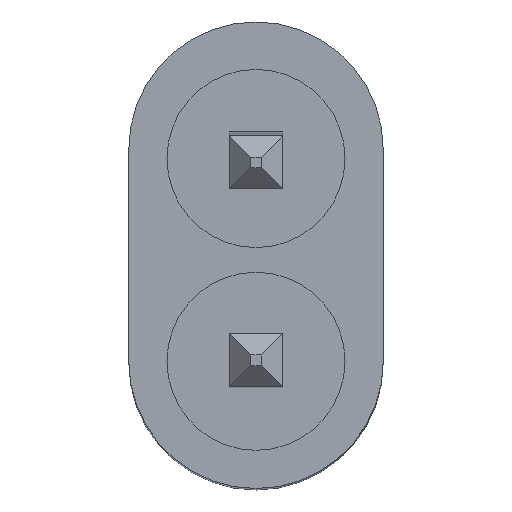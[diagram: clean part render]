
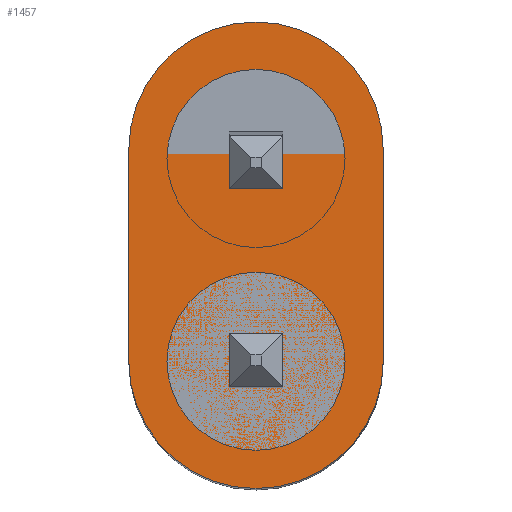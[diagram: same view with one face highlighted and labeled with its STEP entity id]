
A CAD part, top view. The second image highlights one B-rep face of the part: STEP entity #1457.
In plain terms, the highlighted planar face has unit normal (0, 0, 1).
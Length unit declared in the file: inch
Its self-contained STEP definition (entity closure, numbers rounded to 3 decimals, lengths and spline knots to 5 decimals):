
#1340=CARTESIAN_POINT('',(0.,0.,0.4));
#1341=DIRECTION('',(0.,0.,1.));
#1342=DIRECTION('',(1.,0.,0.));
#1343=AXIS2_PLACEMENT_3D('',#1340,#1341,#1342);
#1345=DIRECTION('',(0.,1.,0.));
#1346=VECTOR('',#1345,0.1);
#1347=CARTESIAN_POINT('',(0.06,-0.1,0.4));
#1348=LINE('',#1347,#1346);
#1349=CARTESIAN_POINT('',(0.,-0.1,0.4));
#1350=DIRECTION('',(0.,0.,1.));
#1351=DIRECTION('',(-1.,0.,0.));
#1352=AXIS2_PLACEMENT_3D('',#1349,#1350,#1351);
#1354=DIRECTION('',(0.,-1.,0.));
#1355=VECTOR('',#1354,0.1);
#1356=CARTESIAN_POINT('',(-0.06,0.,0.4));
#1357=LINE('',#1356,#1355);
#1366=CARTESIAN_POINT('',(0.06,0.,0.4));
#1367=CARTESIAN_POINT('',(-0.06,0.,0.4));
#1368=VERTEX_POINT('',#1366);
#1369=VERTEX_POINT('',#1367);
#1370=CARTESIAN_POINT('',(-0.06,-0.1,0.4));
#1371=VERTEX_POINT('',#1370);
#1372=CARTESIAN_POINT('',(0.06,-0.1,0.4));
#1373=VERTEX_POINT('',#1372);
#1446=CARTESIAN_POINT('',(0.,0.,0.4));
#1447=DIRECTION('',(0.,0.,1.));
#1448=DIRECTION('',(1.,0.,0.));
#1449=AXIS2_PLACEMENT_3D('',#1446,#1447,#1448);
#1450=PLANE('',#1449);
#1451=ORIENTED_EDGE('',*,*,#1398,.F.);
#1452=ORIENTED_EDGE('',*,*,#1413,.F.);
#1453=ORIENTED_EDGE('',*,*,#1427,.F.);
#1454=ORIENTED_EDGE('',*,*,#1440,.F.);
#1455=EDGE_LOOP('',(#1451,#1452,#1453,#1454));
#1456=FACE_OUTER_BOUND('',#1455,.F.);
#1457=ADVANCED_FACE('',(#1456),#1450,.T.);
#1344=CIRCLE('',#1343,0.06);
#1353=CIRCLE('',#1352,0.06);
#1398=EDGE_CURVE('',#1368,#1369,#1344,.T.);
#1413=EDGE_CURVE('',#1373,#1368,#1348,.T.);
#1427=EDGE_CURVE('',#1371,#1373,#1353,.T.);
#1440=EDGE_CURVE('',#1369,#1371,#1357,.T.);
